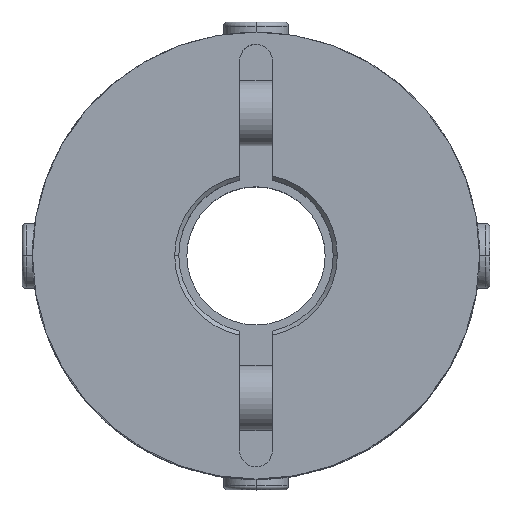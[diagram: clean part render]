
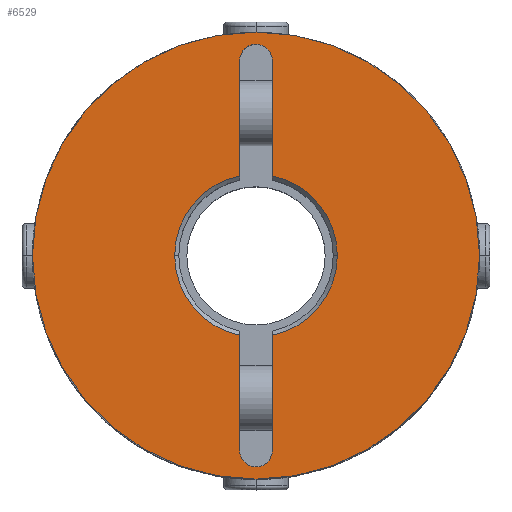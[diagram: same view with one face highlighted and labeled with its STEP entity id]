
A CAD part, top view. The second image highlights one B-rep face of the part: STEP entity #6529.
In plain terms, the highlighted planar face has unit normal (0, 0, 1).
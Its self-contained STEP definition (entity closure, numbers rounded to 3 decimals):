
#2557=CARTESIAN_POINT('',(10.,0.,29.0));
#2558=VERTEX_POINT('',#2557);
#2574=CARTESIAN_POINT('',(2.,-9.798,29.0));
#2575=VERTEX_POINT('',#2574);
#2589=CARTESIAN_POINT('',(0.,0.0,29.0));
#2590=DIRECTION('',(0.0,0.0,1.0));
#2591=DIRECTION('',(-1.0,0.0,0.0));
#2592=AXIS2_PLACEMENT_3D('',#2589,#2590,#2591);
#2593=CIRCLE('',#2592,10.0);
#2594=EDGE_CURVE('',#2575,#2558,#2593,.T.);
#2756=CARTESIAN_POINT('',(-10.,0.,29.0));
#2757=VERTEX_POINT('',#2756);
#2764=CARTESIAN_POINT('',(-2.,-9.798,29.0));
#2765=VERTEX_POINT('',#2764);
#2766=CARTESIAN_POINT('',(0.,0.0,29.0));
#2767=DIRECTION('',(0.0,0.0,1.0));
#2768=DIRECTION('',(-1.0,0.0,0.0));
#2769=AXIS2_PLACEMENT_3D('',#2766,#2767,#2768);
#2770=CIRCLE('',#2769,10.0);
#2771=EDGE_CURVE('',#2757,#2765,#2770,.T.);
#2797=CARTESIAN_POINT('',(-1.414,25.414,29.0));
#2798=VERTEX_POINT('',#2797);
#2814=CARTESIAN_POINT('',(2.,24.,29.0));
#2815=VERTEX_POINT('',#2814);
#2822=CARTESIAN_POINT('',(0.,24.,29.0));
#2823=DIRECTION('',(0.0,0.0,1.));
#2824=DIRECTION('',(0.707,0.707,0.0));
#2825=AXIS2_PLACEMENT_3D('',#2822,#2823,#2824);
#2826=CIRCLE('',#2825,2.);
#2827=EDGE_CURVE('',#2815,#2798,#2826,.T.);
#2839=CARTESIAN_POINT('',(1.414,-25.414,29.0));
#2840=VERTEX_POINT('',#2839);
#2856=CARTESIAN_POINT('',(-2.,-24.,29.0));
#2857=VERTEX_POINT('',#2856);
#2864=CARTESIAN_POINT('',(0.,-24.,29.0));
#2865=DIRECTION('',(0.0,0.0,1.0));
#2866=DIRECTION('',(-0.707,-0.707,0.0));
#2867=AXIS2_PLACEMENT_3D('',#2864,#2865,#2866);
#2868=CIRCLE('',#2867,2.0);
#2869=EDGE_CURVE('',#2857,#2840,#2868,.T.);
#3424=CARTESIAN_POINT('',(-27.5,0.,29.0));
#3425=VERTEX_POINT('',#3424);
#3432=CARTESIAN_POINT('',(27.5,0.0,29.0));
#3433=VERTEX_POINT('',#3432);
#3434=CARTESIAN_POINT('',(0.,0.0,29.0));
#3435=DIRECTION('',(0.0,0.0,-1.0));
#3436=DIRECTION('',(1.0,0.0,0.0));
#3437=AXIS2_PLACEMENT_3D('',#3434,#3435,#3436);
#3438=CIRCLE('',#3437,27.5);
#3439=EDGE_CURVE('',#3425,#3433,#3438,.T.);
#5730=CARTESIAN_POINT('',(0.,0.0,29.0));
#5731=DIRECTION('',(0.0,0.0,-1.0));
#5732=DIRECTION('',(1.0,0.0,0.0));
#5733=AXIS2_PLACEMENT_3D('',#5730,#5731,#5732);
#5734=CIRCLE('',#5733,27.5);
#5735=EDGE_CURVE('',#3433,#3425,#5734,.T.);
#6288=CARTESIAN_POINT('',(2.,-24.,29.0));
#6289=VERTEX_POINT('',#6288);
#6290=CARTESIAN_POINT('',(0.,-24.,29.0));
#6291=DIRECTION('',(0.0,0.0,1.0));
#6292=DIRECTION('',(-0.707,-0.707,0.0));
#6293=AXIS2_PLACEMENT_3D('',#6290,#6291,#6292);
#6294=CIRCLE('',#6293,2.0);
#6295=EDGE_CURVE('',#2840,#6289,#6294,.T.);
#6313=CARTESIAN_POINT('',(2.,-9.798,29.0));
#6314=DIRECTION('',(0.0,-1.0,0.0));
#6315=VECTOR('',#6314,14.202);
#6316=LINE('',#6313,#6315);
#6317=EDGE_CURVE('',#2575,#6289,#6316,.T.);
#6336=CARTESIAN_POINT('',(-2.,24.,29.0));
#6337=VERTEX_POINT('',#6336);
#6338=CARTESIAN_POINT('',(0.,24.,29.0));
#6339=DIRECTION('',(0.0,0.0,1.));
#6340=DIRECTION('',(0.707,0.707,0.0));
#6341=AXIS2_PLACEMENT_3D('',#6338,#6339,#6340);
#6342=CIRCLE('',#6341,2.);
#6343=EDGE_CURVE('',#2798,#6337,#6342,.T.);
#6361=CARTESIAN_POINT('',(-2.,9.798,29.0));
#6362=VERTEX_POINT('',#6361);
#6363=CARTESIAN_POINT('',(-2.,9.798,29.0));
#6364=DIRECTION('',(0.0,1.0,0.0));
#6365=VECTOR('',#6364,14.202);
#6366=LINE('',#6363,#6365);
#6367=EDGE_CURVE('',#6362,#6337,#6366,.T.);
#6443=CARTESIAN_POINT('',(2.,9.798,29.0));
#6444=VERTEX_POINT('',#6443);
#6458=CARTESIAN_POINT('',(2.,24.,29.0));
#6459=DIRECTION('',(0.0,-1.0,0.0));
#6460=VECTOR('',#6459,14.202);
#6461=LINE('',#6458,#6460);
#6462=EDGE_CURVE('',#2815,#6444,#6461,.T.);
#6481=CARTESIAN_POINT('',(-2.,-24.,29.0));
#6482=DIRECTION('',(0.0,1.0,0.0));
#6483=VECTOR('',#6482,14.202);
#6484=LINE('',#6481,#6483);
#6485=EDGE_CURVE('',#2857,#2765,#6484,.T.);
#6494=CARTESIAN_POINT('',(2.5,0.,29.0));
#6495=DIRECTION('',(0.0,0.0,1.0));
#6496=DIRECTION('',(1.0,0.0,0.0));
#6497=AXIS2_PLACEMENT_3D('',#6494,#6495,#6496);
#6498=PLANE('',#6497);
#6499=ORIENTED_EDGE('',*,*,#5735,.F.);
#6500=ORIENTED_EDGE('',*,*,#3439,.F.);
#6501=EDGE_LOOP('',(#6499,#6500));
#6502=FACE_OUTER_BOUND('',#6501,.T.);
#6503=ORIENTED_EDGE('',*,*,#6317,.T.);
#6504=ORIENTED_EDGE('',*,*,#6295,.F.);
#6505=ORIENTED_EDGE('',*,*,#2869,.F.);
#6506=ORIENTED_EDGE('',*,*,#6485,.T.);
#6507=ORIENTED_EDGE('',*,*,#2771,.F.);
#6508=CARTESIAN_POINT('',(0.,0.0,29.0));
#6509=DIRECTION('',(0.0,0.0,1.0));
#6510=DIRECTION('',(-1.0,0.0,0.0));
#6511=AXIS2_PLACEMENT_3D('',#6508,#6509,#6510);
#6512=CIRCLE('',#6511,10.0);
#6513=EDGE_CURVE('',#6362,#2757,#6512,.T.);
#6514=ORIENTED_EDGE('',*,*,#6513,.F.);
#6515=ORIENTED_EDGE('',*,*,#6367,.T.);
#6516=ORIENTED_EDGE('',*,*,#6343,.F.);
#6517=ORIENTED_EDGE('',*,*,#2827,.F.);
#6518=ORIENTED_EDGE('',*,*,#6462,.T.);
#6519=CARTESIAN_POINT('',(0.,0.0,29.0));
#6520=DIRECTION('',(0.0,0.0,1.0));
#6521=DIRECTION('',(-1.0,0.0,0.0));
#6522=AXIS2_PLACEMENT_3D('',#6519,#6520,#6521);
#6523=CIRCLE('',#6522,10.0);
#6524=EDGE_CURVE('',#2558,#6444,#6523,.T.);
#6525=ORIENTED_EDGE('',*,*,#6524,.F.);
#6526=ORIENTED_EDGE('',*,*,#2594,.F.);
#6527=EDGE_LOOP('',(#6503,#6504,#6505,#6506,#6507,#6514,#6515,#6516,#6517,#6518,#6525,#6526));
#6528=FACE_BOUND('',#6527,.T.);
#6529=ADVANCED_FACE('',(#6502,#6528),#6498,.T.);
